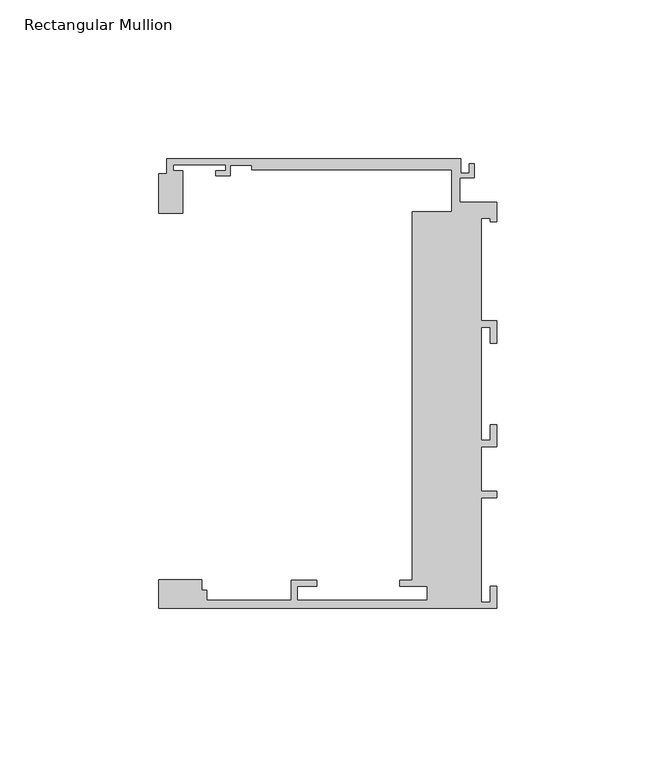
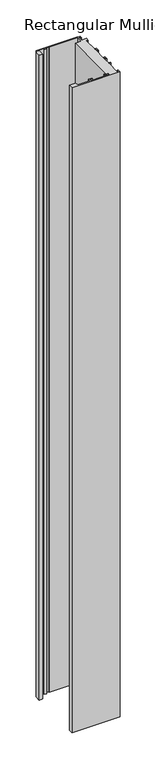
"""IFC4 building model written with IfcOpenShell, lengths in millimetres: member geometry, Rectangular Mullion : Danpal_K12_End-Mullion_B2."""

from ifc_helpers import new_model, si_unit, frame, origin, place, context, project, spatial, polyline, outline, extrude, source, transform, mapped, element, save


def rectangular_mullion_49b8ade9(model_context):
    return source(origin(), model_context, "Body", "SweptSolid", [
        extrude(outline(polyline([(-26.6209612, -1.9446289), (-14.1055875, -1.9446289), (-14.1055875, 11.3051512), (-77.1531178, 11.3051512), (-77.1531178, 12.8051513), (-83.8999976, 12.8051513), (-83.8999976, 9.5051512), (-88.3999976, 9.5051512), (-88.3999976, 11.0051513), (-85.3999976, 11.0051513), (-85.3999976, 13.0051512), (-101.8999976, 13.0051512), (-101.8999976, 11.0051513), (-98.8999976, 11.0051513), (-98.8999976, -2.316674), (-106.4117426, -2.316674), (-106.4117426, 10.065304), (-103.8999976, 10.065304), (-103.8999976, 14.8051514), (-11.4019537, 14.8051514), (-11.4019537, 10.3006425), (-8.6518595, 10.3006425), (-8.6518595, 13.3051514), (-7.1518595, 13.3051514), (-7.1518595, 8.8006425), (-11.6055875, 8.8006425), (-11.6055875, 1.0551514), (0.0, 1.0551514), (0.0, -4.9448486), (-2.0, -4.9448486), (-2.0, -3.9448486), (-4.8, -3.9448486), (-4.8, -36.2443486), (0.0, -36.2443486), (0.0, -43.2443486), (-2.0, -43.2443486), (-2.0, -38.2443486), (-4.8, -38.2443486), (-4.8, -73.8676657), (-2.0, -73.8676657), (-2.0, -68.8676657), (0.0, -68.8676657), (0.0, -75.867683), (-4.8, -75.867683), (-4.8, -89.8676485), (0.0, -89.8676485), (0.0, -91.8676485), (-4.8, -91.8676485), (-4.8, -124.7676657), (-2.0, -124.7676657), (-2.0, -119.7676657), (0.0, -119.7676657), (0.0, -126.7676657), (-106.4117426, -126.7676657), (-106.4117426, -117.6986749), (-92.8228167, -117.6986749), (-92.8228167, -121.0676175), (-91.2900275, -121.0676175), (-91.2900275, -124.2676658), (-64.7350275, -124.2676658), (-64.7350275, -117.8676658), (-56.7350275, -117.8676658), (-56.7350275, -119.8676658), (-62.7350275, -119.8676658), (-62.7350275, -124.2676658), (-21.835, -124.2676658), (-21.835, -119.8676658), (-30.6, -119.8676658), (-30.6, -117.8676658), (-26.6209612, -117.8676658), (-26.6209612, -1.9446289)])), frame((0.0, 0.0, -1500.0), z_axis=(0.0, 0.0, 1.0), x_axis=(1.0, 0.0, 0.0)), (0.0, 0.0, 1.0), 1500.0),
    ])


if __name__ == "__main__":
    model = new_model("IFC4")
    model_context = context("Model", 3, world=origin())
    ifc_project = project(units=[si_unit("LENGTHUNIT", "METRE", prefix="MILLI")], contexts=[model_context])
    site = spatial("IfcSite", under=ifc_project)
    building = spatial("IfcBuilding", under=site)
    placement = place(None, origin())
    rectangular_mullion_shape = rectangular_mullion_49b8ade9(model_context)
    element("IfcMember", 1, ObjectType="Rectangular Mullion : Danpal_K12_End-Mullion_B2", at=placement, inside=building, context=model_context, shape_type="MappedRepresentation", body=[
        mapped(rectangular_mullion_shape, transform((0.0, 0.0, 0.0), x_axis=(1.0, 0.0, 0.0), y_axis=(0.0, 1.0, 0.0), z_axis=(0.0, 0.0, 1.0))),
    ])
    save(model, "model.ifc")
